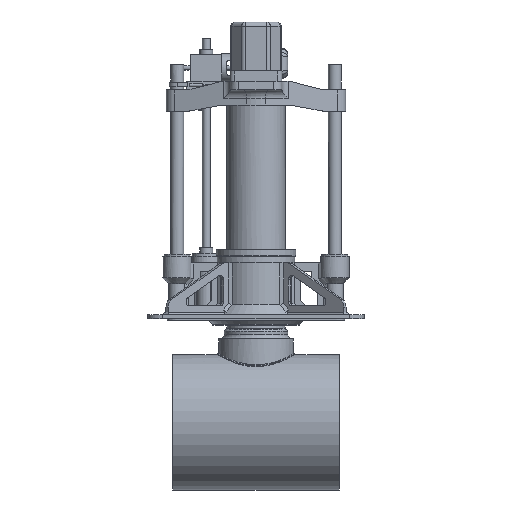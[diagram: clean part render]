
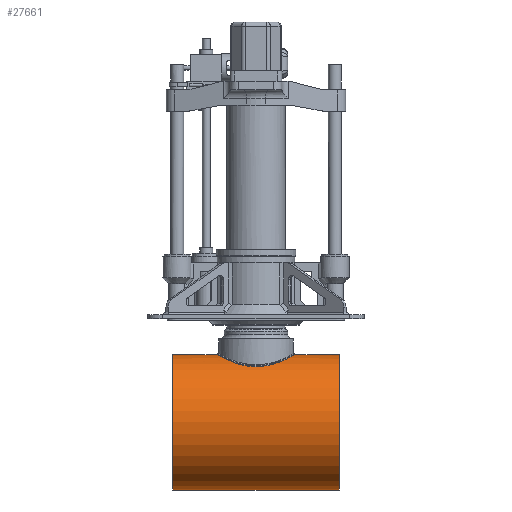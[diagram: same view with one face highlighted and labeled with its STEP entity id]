
A CAD part, front view. The second image highlights one B-rep face of the part: STEP entity #27661.
In plain terms, the highlighted cylindrical face has radius 156.7 mm (diameter 313.4 mm), a full revolution.
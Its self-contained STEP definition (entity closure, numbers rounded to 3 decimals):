
#323=FACE_BOUND('',#3124,.T.);
#533=B_SPLINE_CURVE_WITH_KNOTS('',3,(#40682,#40683,#40684,#40685,#40686,
#40687,#40688,#40689,#40690,#40691,#40692,#40693,#40694,#40695,#40696,#40697,
#40698,#40699,#40700,#40701,#40702,#40703,#40704,#40705,#40706,#40707,#40708,
#40709,#40710,#40711,#40712,#40713,#40714,#40715),.UNSPECIFIED.,.F.,.F.,
(4,2,2,2,2,2,2,2,2,2,2,2,2,2,2,2,4),(0.,0.959,1.918,
2.876,3.835,4.793,5.752,6.71,
7.669,8.627,9.585,10.544,11.502,
12.461,13.42,14.378,15.337),
 .UNSPECIFIED.);
#534=B_SPLINE_CURVE_WITH_KNOTS('',3,(#40716,#40717,#40718,#40719,#40720,
#40721,#40722,#40723,#40724,#40725,#40726,#40727,#40728,#40729,#40730,#40731,
#40732,#40733,#40734,#40735,#40736,#40737,#40738,#40739,#40740,#40741,#40742,
#40743,#40744,#40745,#40746,#40747,#40748,#40749),.UNSPECIFIED.,.F.,.F.,
(4,2,2,2,2,2,2,2,2,2,2,2,2,2,2,2,4),(15.337,16.296,17.255,
18.213,19.172,20.131,21.089,22.047,
23.006,23.964,24.922,25.881,26.839,
27.798,28.757,29.716,30.674),
 .UNSPECIFIED.);
#1641=FACE_OUTER_BOUND('',#3123,.T.);
#3123=EDGE_LOOP('',(#17691,#17692,#17693,#17694));
#3124=EDGE_LOOP('',(#17695,#17696));
#4759=LINE('',#40678,#7137);
#7137=VECTOR('',#32106,156.7);
#9537=CIRCLE('',#29203,156.7);
#9538=CIRCLE('',#29204,156.7);
#10844=VERTEX_POINT('',#40675);
#10845=VERTEX_POINT('',#40677);
#10846=VERTEX_POINT('',#40680);
#10847=VERTEX_POINT('',#40681);
#13520=EDGE_CURVE('',#10844,#10844,#9537,.T.);
#13521=EDGE_CURVE('',#10844,#10845,#4759,.T.);
#13522=EDGE_CURVE('',#10845,#10845,#9538,.T.);
#13523=EDGE_CURVE('',#10846,#10847,#533,.T.);
#13524=EDGE_CURVE('',#10847,#10846,#534,.T.);
#17691=ORIENTED_EDGE('',*,*,#13520,.T.);
#17692=ORIENTED_EDGE('',*,*,#13521,.T.);
#17693=ORIENTED_EDGE('',*,*,#13522,.T.);
#17694=ORIENTED_EDGE('',*,*,#13521,.F.);
#17695=ORIENTED_EDGE('',*,*,#13523,.T.);
#17696=ORIENTED_EDGE('',*,*,#13524,.T.);
#25648=CYLINDRICAL_SURFACE('',#29202,156.7);
#27661=ADVANCED_FACE('',(#1641,#323),#25648,.T.);
#29202=AXIS2_PLACEMENT_3D('',#40674,#32102,#32103);
#29203=AXIS2_PLACEMENT_3D('',#40676,#32104,#32105);
#29204=AXIS2_PLACEMENT_3D('',#40679,#32107,#32108);
#32102=DIRECTION('center_axis',(1.,0.,0.));
#32103=DIRECTION('ref_axis',(0.,0.,1.));
#32104=DIRECTION('center_axis',(-1.,0.,0.));
#32105=DIRECTION('ref_axis',(0.,0.,1.));
#32106=DIRECTION('',(-1.,0.,0.));
#32107=DIRECTION('center_axis',(1.,0.,0.));
#32108=DIRECTION('ref_axis',(0.,0.,1.));
#40674=CARTESIAN_POINT('Origin',(0.,0.,
-236.377));
#40675=CARTESIAN_POINT('',(192.5,0.,-393.077));
#40676=CARTESIAN_POINT('Origin',(192.5,0.,-236.377));
#40677=CARTESIAN_POINT('',(-192.5,0.,-393.077));
#40678=CARTESIAN_POINT('',(0.,0.,-393.077));
#40679=CARTESIAN_POINT('Origin',(-192.5,0.,-236.377));
#40680=CARTESIAN_POINT('',(0.,-50.5,-88.037));
#40681=CARTESIAN_POINT('',(0.,50.5,-88.037));
#40682=CARTESIAN_POINT('Ctrl Pts',(0.,-50.5,
-88.037));
#40683=CARTESIAN_POINT('Ctrl Pts',(-3.196,-50.5,
-88.037));
#40684=CARTESIAN_POINT('Ctrl Pts',(-6.493,-50.192,
-87.931));
#40685=CARTESIAN_POINT('Ctrl Pts',(-13.036,-48.902,-87.501));
#40686=CARTESIAN_POINT('Ctrl Pts',(-16.282,-47.921,
-87.178));
#40687=CARTESIAN_POINT('Ctrl Pts',(-22.496,-45.338,
-86.373));
#40688=CARTESIAN_POINT('Ctrl Pts',(-25.468,-43.733,
-85.891));
#40689=CARTESIAN_POINT('Ctrl Pts',(-30.96,-40.034,
-84.865));
#40690=CARTESIAN_POINT('Ctrl Pts',(-33.479,-37.938,
-84.322));
#40691=CARTESIAN_POINT('Ctrl Pts',(-37.938,-33.48,
-83.278));
#40692=CARTESIAN_POINT('Ctrl Pts',(-40.033,-30.961,
-82.741));
#40693=CARTESIAN_POINT('Ctrl Pts',(-43.732,-25.469,-81.735));
#40694=CARTESIAN_POINT('Ctrl Pts',(-45.338,-22.496,
-81.268));
#40695=CARTESIAN_POINT('Ctrl Pts',(-47.922,-16.281,
-80.494));
#40696=CARTESIAN_POINT('Ctrl Pts',(-48.903,-13.034,-80.186));
#40697=CARTESIAN_POINT('Ctrl Pts',(-50.192,-6.491,
-79.777));
#40698=CARTESIAN_POINT('Ctrl Pts',(-50.5,-3.195,
-79.677));
#40699=CARTESIAN_POINT('Ctrl Pts',(-50.5,3.195,-79.677));
#40700=CARTESIAN_POINT('Ctrl Pts',(-50.192,6.491,-79.777));
#40701=CARTESIAN_POINT('Ctrl Pts',(-48.903,13.034,-80.186));
#40702=CARTESIAN_POINT('Ctrl Pts',(-47.922,16.281,-80.494));
#40703=CARTESIAN_POINT('Ctrl Pts',(-45.338,22.496,-81.268));
#40704=CARTESIAN_POINT('Ctrl Pts',(-43.732,25.469,-81.735));
#40705=CARTESIAN_POINT('Ctrl Pts',(-40.033,30.961,-82.741));
#40706=CARTESIAN_POINT('Ctrl Pts',(-37.938,33.48,-83.278));
#40707=CARTESIAN_POINT('Ctrl Pts',(-33.479,37.938,-84.322));
#40708=CARTESIAN_POINT('Ctrl Pts',(-30.96,40.034,-84.865));
#40709=CARTESIAN_POINT('Ctrl Pts',(-25.468,43.733,-85.891));
#40710=CARTESIAN_POINT('Ctrl Pts',(-22.496,45.338,-86.373));
#40711=CARTESIAN_POINT('Ctrl Pts',(-16.282,47.921,-87.178));
#40712=CARTESIAN_POINT('Ctrl Pts',(-13.036,48.902,-87.501));
#40713=CARTESIAN_POINT('Ctrl Pts',(-6.493,50.192,-87.931));
#40714=CARTESIAN_POINT('Ctrl Pts',(-3.196,50.5,-88.037));
#40715=CARTESIAN_POINT('Ctrl Pts',(0.,50.5,
-88.037));
#40716=CARTESIAN_POINT('Ctrl Pts',(0.,50.5,
-88.037));
#40717=CARTESIAN_POINT('Ctrl Pts',(3.196,50.5,-88.037));
#40718=CARTESIAN_POINT('Ctrl Pts',(6.493,50.192,-87.931));
#40719=CARTESIAN_POINT('Ctrl Pts',(13.036,48.902,-87.501));
#40720=CARTESIAN_POINT('Ctrl Pts',(16.282,47.921,-87.178));
#40721=CARTESIAN_POINT('Ctrl Pts',(22.496,45.338,-86.373));
#40722=CARTESIAN_POINT('Ctrl Pts',(25.468,43.733,-85.891));
#40723=CARTESIAN_POINT('Ctrl Pts',(30.96,40.034,-84.865));
#40724=CARTESIAN_POINT('Ctrl Pts',(33.479,37.938,-84.322));
#40725=CARTESIAN_POINT('Ctrl Pts',(37.938,33.48,-83.278));
#40726=CARTESIAN_POINT('Ctrl Pts',(40.033,30.961,-82.741));
#40727=CARTESIAN_POINT('Ctrl Pts',(43.732,25.469,-81.735));
#40728=CARTESIAN_POINT('Ctrl Pts',(45.338,22.496,-81.268));
#40729=CARTESIAN_POINT('Ctrl Pts',(47.922,16.281,-80.494));
#40730=CARTESIAN_POINT('Ctrl Pts',(48.903,13.034,-80.186));
#40731=CARTESIAN_POINT('Ctrl Pts',(50.192,6.491,-79.777));
#40732=CARTESIAN_POINT('Ctrl Pts',(50.5,3.195,-79.677));
#40733=CARTESIAN_POINT('Ctrl Pts',(50.5,-3.195,-79.677));
#40734=CARTESIAN_POINT('Ctrl Pts',(50.192,-6.491,-79.777));
#40735=CARTESIAN_POINT('Ctrl Pts',(48.903,-13.034,-80.186));
#40736=CARTESIAN_POINT('Ctrl Pts',(47.922,-16.281,-80.494));
#40737=CARTESIAN_POINT('Ctrl Pts',(45.338,-22.496,-81.268));
#40738=CARTESIAN_POINT('Ctrl Pts',(43.732,-25.469,-81.735));
#40739=CARTESIAN_POINT('Ctrl Pts',(40.033,-30.961,-82.741));
#40740=CARTESIAN_POINT('Ctrl Pts',(37.938,-33.48,-83.278));
#40741=CARTESIAN_POINT('Ctrl Pts',(33.479,-37.938,-84.322));
#40742=CARTESIAN_POINT('Ctrl Pts',(30.96,-40.034,-84.865));
#40743=CARTESIAN_POINT('Ctrl Pts',(25.468,-43.733,-85.891));
#40744=CARTESIAN_POINT('Ctrl Pts',(22.496,-45.338,-86.373));
#40745=CARTESIAN_POINT('Ctrl Pts',(16.282,-47.921,-87.178));
#40746=CARTESIAN_POINT('Ctrl Pts',(13.036,-48.902,-87.501));
#40747=CARTESIAN_POINT('Ctrl Pts',(6.493,-50.192,-87.931));
#40748=CARTESIAN_POINT('Ctrl Pts',(3.196,-50.5,-88.037));
#40749=CARTESIAN_POINT('Ctrl Pts',(0.,-50.5,
-88.037));
